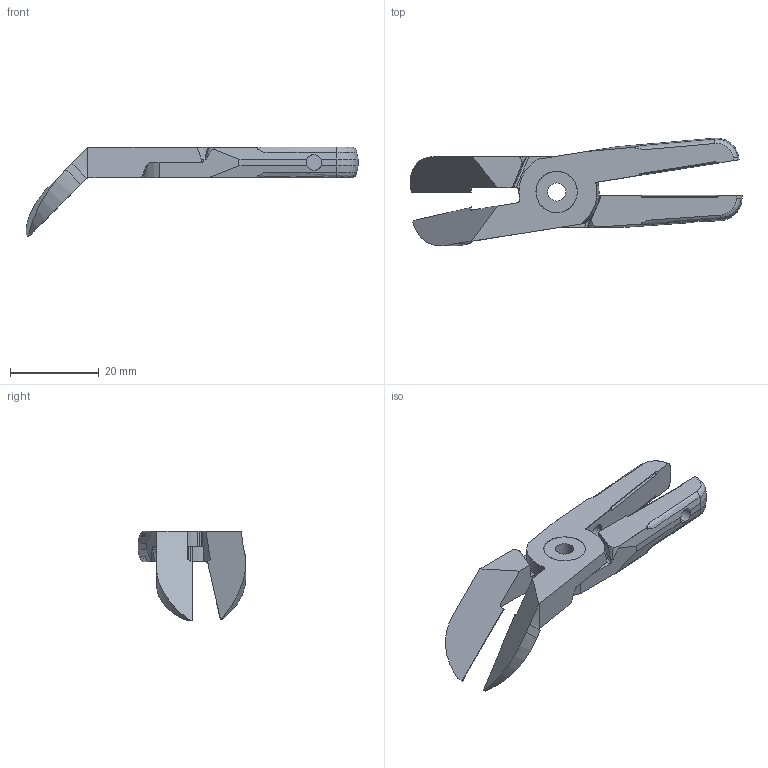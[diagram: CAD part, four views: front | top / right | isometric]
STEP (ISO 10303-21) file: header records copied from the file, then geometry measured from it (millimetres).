
FILE_DESCRIPTION((''),'2;1');
FILE_NAME('GPT-05-RV45.stp','2006-07-07T09:15:36',(''),(''),'Mechanical Desktop 2005','Mechanical Desktop 2005',', , ');
FILE_SCHEMA(('CONFIG_CONTROL_DESIGN'));
Length unit declared in the file: inch
Products named in the file (4): GPT-05-RV45; 5LIS; 9PRIVIT; 5LIO
Assembly tree (3 placements, depth 2):
  GPT-05-RV45
    5LIS
    9PRIVIT
    5LIO
Bounding box: 74.61 x 24.2 x 20.16 mm (x, y, z)
Volume: 5864.1 mm3; surface area: 4917.9 mm2
Topology: 3 solids, 3 shells, 192 faces, 513 edges, 324 vertices
Faces by surface type: cylinder 70, plane 63, cone 26, bspline 26, torus 7
Entity records: 7671 total; most frequent: CARTESIAN_POINT 2909, ORIENTED_EDGE 1018, DIRECTION 920, EDGE_CURVE 509, AXIS2_PLACEMENT_3D 337, VERTEX_POINT 324, VECTOR 246, LINE 246
